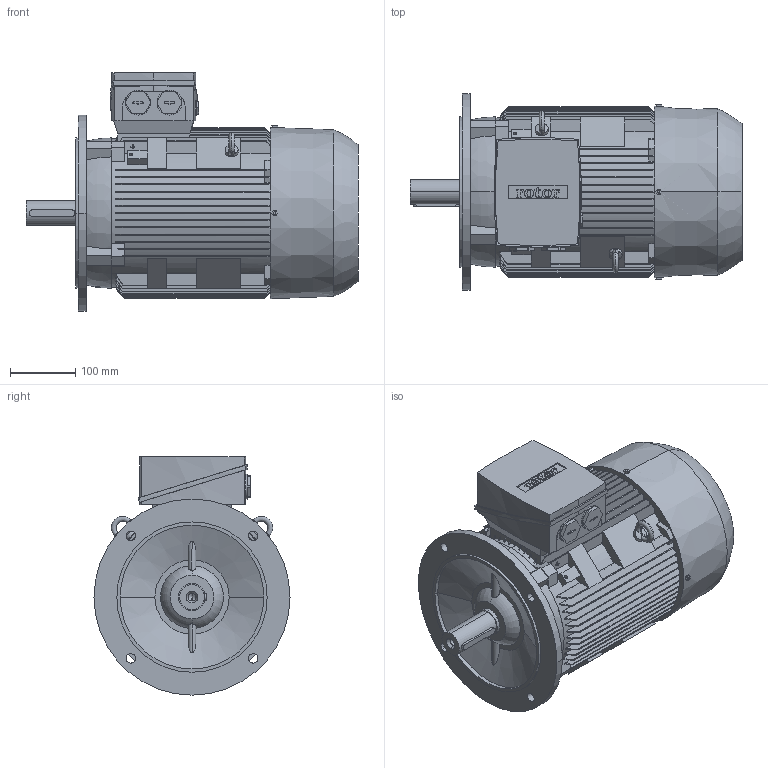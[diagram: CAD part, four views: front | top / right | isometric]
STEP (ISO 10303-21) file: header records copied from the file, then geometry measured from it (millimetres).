
FILE_DESCRIPTION (( 'STEP AP214' ), '1' );
FILE_NAME ('6RN132M08E32 IM3041.STEP', '2021-07-15T09:39:43', ( '' ), ( '' ), 'SwSTEP 2.0', 'SolidWorks 2018', '' );
FILE_SCHEMA (( 'AUTOMOTIVE_DESIGN' ));
Length unit declared in the file: millimetre
Products named in the file (1): 6RN132M08E32 IM3041
Bounding box: 508 x 300 x 364.5 mm (x, y, z)
Volume: 21273982.1 mm3; surface area: 979740.2 mm2
Topology: 7 solids, 7 shells, 903 faces, 2474 edges, 1627 vertices
Faces by surface type: plane 495, cylinder 206, torus 130, bspline 48, cone 20, sphere 4
Entity records: 38133 total; most frequent: CARTESIAN_POINT 16075, ORIENTED_EDGE 4944, DIRECTION 4042, EDGE_CURVE 2472, VERTEX_POINT 1627, LINE 1388, VECTOR 1388, AXIS2_PLACEMENT_3D 1327
